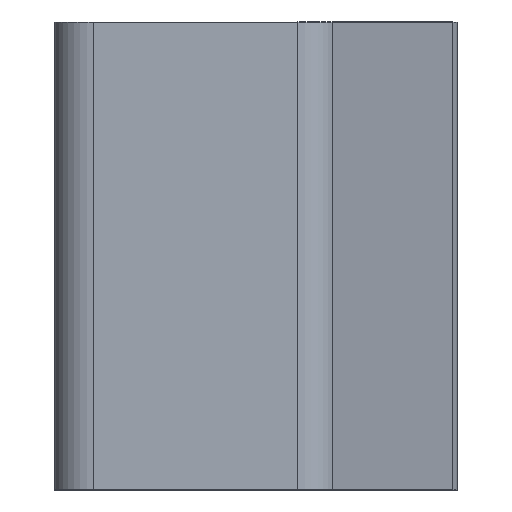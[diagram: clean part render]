
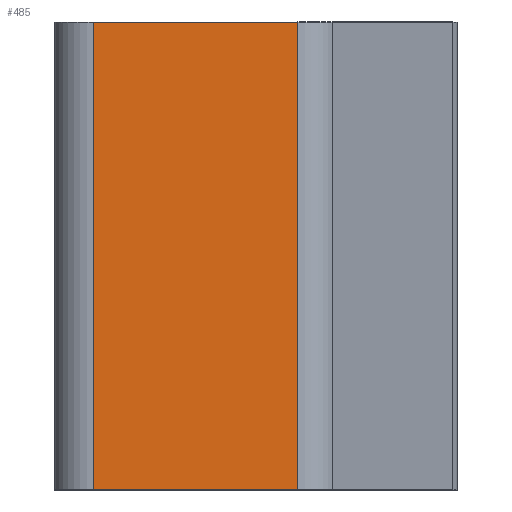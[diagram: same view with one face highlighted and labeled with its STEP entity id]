
A CAD part, front view. The second image highlights one B-rep face of the part: STEP entity #485.
In plain terms, the highlighted planar face has unit normal (0, -1, 0).
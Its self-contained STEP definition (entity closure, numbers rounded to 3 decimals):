
#458=AXIS2_PLACEMENT_3D('Plane Axis2P3D',#455,#456,#457) ;
#188=CARTESIAN_POINT('Line Origine',(2465.793,-1066.,620.431)) ;
#192=CARTESIAN_POINT('Vertex',(2440.,-1066.,620.431)) ;
#194=CARTESIAN_POINT('Vertex',(2491.585,-1066.,620.431)) ;
#455=CARTESIAN_POINT('Axis2P3D Location',(2093.66,-1066.,590.431)) ;
#460=CARTESIAN_POINT('Line Origine',(2440.,-1066.,561.331)) ;
#464=CARTESIAN_POINT('Vertex',(2440.,-1066.,502.231)) ;
#467=CARTESIAN_POINT('Line Origine',(2465.793,-1066.,502.231)) ;
#471=CARTESIAN_POINT('Vertex',(2491.585,-1066.,502.231)) ;
#474=CARTESIAN_POINT('Line Origine',(2491.585,-1066.,561.331)) ;
#189=DIRECTION('Vector Direction',(1.,0.,0.)) ;
#456=DIRECTION('Axis2P3D Direction',(-0.,1.,0.)) ;
#457=DIRECTION('Axis2P3D XDirection',(1.,0.,0.)) ;
#461=DIRECTION('Vector Direction',(0.,0.,-1.)) ;
#468=DIRECTION('Vector Direction',(1.,0.,0.)) ;
#475=DIRECTION('Vector Direction',(0.,0.,-1.)) ;
#190=VECTOR('Line Direction',#189,1.) ;
#462=VECTOR('Line Direction',#461,1.) ;
#469=VECTOR('Line Direction',#468,1.) ;
#476=VECTOR('Line Direction',#475,1.) ;
#480=ORIENTED_EDGE('',*,*,#466,.T.) ;
#481=ORIENTED_EDGE('',*,*,#473,.T.) ;
#482=ORIENTED_EDGE('',*,*,#478,.F.) ;
#483=ORIENTED_EDGE('',*,*,#196,.F.) ;
#485=ADVANCED_FACE('\X2\51E04F554F53\X0\.2',(#484),#459,.F.) ;
#196=EDGE_CURVE('',#193,#195,#191,.T.) ;
#466=EDGE_CURVE('',#193,#465,#463,.T.) ;
#473=EDGE_CURVE('',#465,#472,#470,.T.) ;
#478=EDGE_CURVE('',#195,#472,#477,.T.) ;
#479=EDGE_LOOP('',(#480,#481,#482,#483)) ;
#484=FACE_OUTER_BOUND('',#479,.T.) ;
#191=LINE('Line',#188,#190) ;
#463=LINE('Line',#460,#462) ;
#470=LINE('Line',#467,#469) ;
#477=LINE('Line',#474,#476) ;
#459=PLANE('Plane',#458) ;
#193=VERTEX_POINT('',#192) ;
#195=VERTEX_POINT('',#194) ;
#465=VERTEX_POINT('',#464) ;
#472=VERTEX_POINT('',#471) ;
